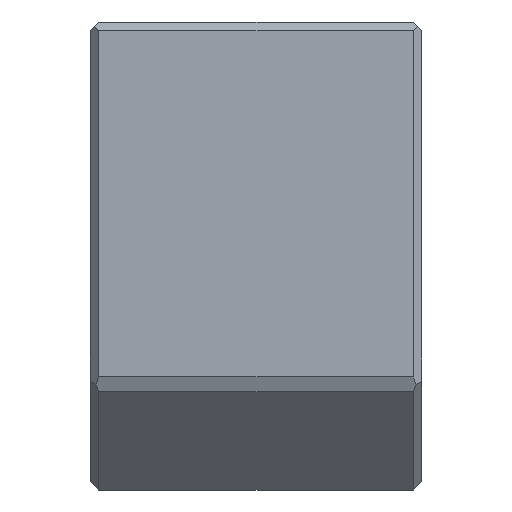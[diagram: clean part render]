
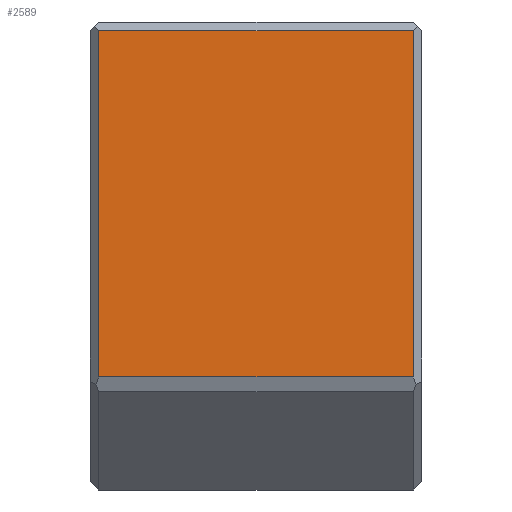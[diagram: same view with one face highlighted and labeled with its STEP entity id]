
A CAD part, left-side view. The second image highlights one B-rep face of the part: STEP entity #2589.
In plain terms, the highlighted planar face has unit normal (-1, 0, 0).
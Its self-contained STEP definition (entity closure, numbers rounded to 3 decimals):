
#167 = LINE ( 'NONE', #6991, #11579 ) ;
#601 = LINE ( 'NONE', #10897, #2722 ) ;
#812 = PLANE ( 'NONE',  #6424 ) ;
#920 = DIRECTION ( 'NONE',  ( 0., 0., -1. ) ) ;
#1023 = VECTOR ( 'NONE', #920, 1000. ) ;
#1525 = CARTESIAN_POINT ( 'NONE',  ( -51.7, -26.3, 18.35 ) ) ;
#2589 = ADVANCED_FACE ( 'NONE', ( #3736 ), #812, .T. ) ;
#2630 = CARTESIAN_POINT ( 'NONE',  ( -51.7, -27., 19.05 ) ) ;
#2722 = VECTOR ( 'NONE', #3674, 1000. ) ;
#3417 = LINE ( 'NONE', #9032, #1023 ) ;
#3575 = CARTESIAN_POINT ( 'NONE',  ( -51.7, -26.3, -9.85 ) ) ;
#3674 = DIRECTION ( 'NONE',  ( 0., 0., 1. ) ) ;
#3736 = FACE_OUTER_BOUND ( 'NONE', #4608, .T. ) ;
#3939 = ORIENTED_EDGE ( 'NONE', *, *, #4784, .T. ) ;
#3943 = DIRECTION ( 'NONE',  ( 0., 1., 0. ) ) ;
#3976 = VECTOR ( 'NONE', #3943, 1000. ) ;
#4482 = EDGE_CURVE ( 'NONE', #11198, #5465, #601, .T. ) ;
#4608 = EDGE_LOOP ( 'NONE', ( #9316, #5868, #11022, #3939 ) ) ;
#4627 = EDGE_CURVE ( 'NONE', #5465, #6901, #6663, .T. ) ;
#4673 = VERTEX_POINT ( 'NONE', #6707 ) ;
#4784 = EDGE_CURVE ( 'NONE', #6901, #4673, #3417, .T. ) ;
#5328 = DIRECTION ( 'NONE',  ( -1., 0., 0. ) ) ;
#5465 = VERTEX_POINT ( 'NONE', #1525 ) ;
#5542 = CARTESIAN_POINT ( 'NONE',  ( -51.7, -0.7, 18.35 ) ) ;
#5550 = EDGE_CURVE ( 'NONE', #4673, #11198, #167, .T. ) ;
#5868 = ORIENTED_EDGE ( 'NONE', *, *, #4482, .T. ) ;
#6424 = AXIS2_PLACEMENT_3D ( 'NONE', #2630, #5328, #11649 ) ;
#6663 = LINE ( 'NONE', #11169, #3976 ) ;
#6707 = CARTESIAN_POINT ( 'NONE',  ( -51.7, -0.7, -9.85 ) ) ;
#6901 = VERTEX_POINT ( 'NONE', #5542 ) ;
#6991 = CARTESIAN_POINT ( 'NONE',  ( -51.7, -27., -9.85 ) ) ;
#8810 = DIRECTION ( 'NONE',  ( 0., -1., 0. ) ) ;
#9032 = CARTESIAN_POINT ( 'NONE',  ( -51.7, -0.7, -9.85 ) ) ;
#9316 = ORIENTED_EDGE ( 'NONE', *, *, #5550, .T. ) ;
#10897 = CARTESIAN_POINT ( 'NONE',  ( -51.7, -26.3, 19.05 ) ) ;
#11022 = ORIENTED_EDGE ( 'NONE', *, *, #4627, .T. ) ;
#11169 = CARTESIAN_POINT ( 'NONE',  ( -51.7, -27., 18.35 ) ) ;
#11198 = VERTEX_POINT ( 'NONE', #3575 ) ;
#11579 = VECTOR ( 'NONE', #8810, 1000. ) ;
#11649 = DIRECTION ( 'NONE',  ( 0., 0., 1. ) ) ;
